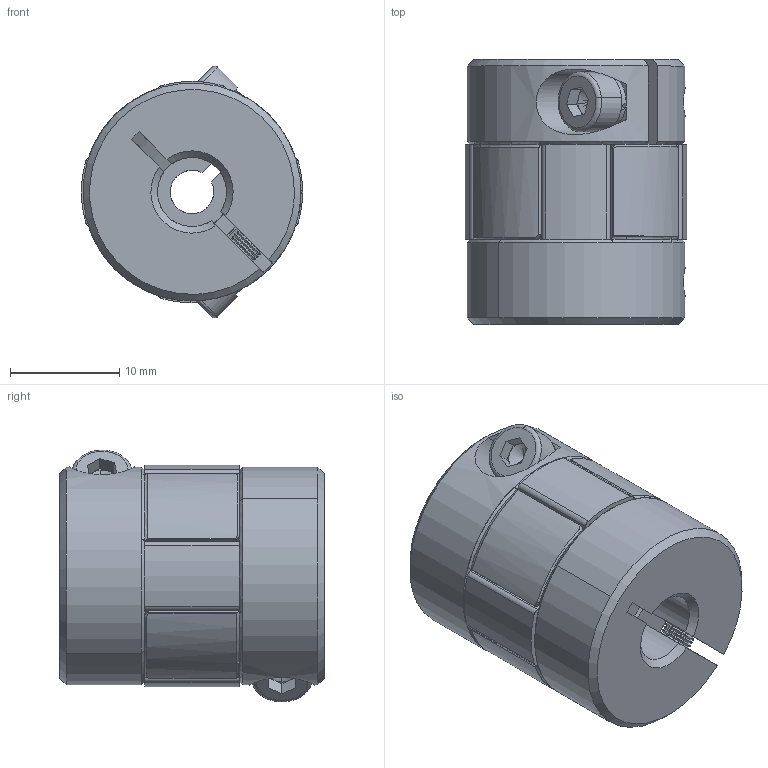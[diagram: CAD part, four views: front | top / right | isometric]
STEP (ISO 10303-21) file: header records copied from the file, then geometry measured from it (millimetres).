
FILE_DESCRIPTION (( 'STEP AP203' ), '1' );
FILE_NAME ('LF-B-D20L25-4-6.35.STEP', '2021-10-20T01:09:21', ( '' ), ( '' ), 'SwSTEP 2.0', 'SolidWorks 2018', '' );
FILE_SCHEMA (( 'CONFIG_CONTROL_DESIGN' ));
Length unit declared in the file: millimetre
Products named in the file (1): LF-B-D20L25-4-6.35
Bounding box: 20.31 x 24.3 x 23.09 mm (x, y, z)
Volume: 6680.6 mm3; surface area: 3577.2 mm2
Topology: 1 solids, 1 shells, 431 faces, 1076 edges, 637 vertices
Faces by surface type: cylinder 167, cone 158, plane 94, torus 12
Entity records: 13178 total; most frequent: CARTESIAN_POINT 2731, DIRECTION 2331, ORIENTED_EDGE 2144, EDGE_CURVE 1072, AXIS2_PLACEMENT_3D 959, VERTEX_POINT 637, CIRCLE 527, EDGE_LOOP 447
